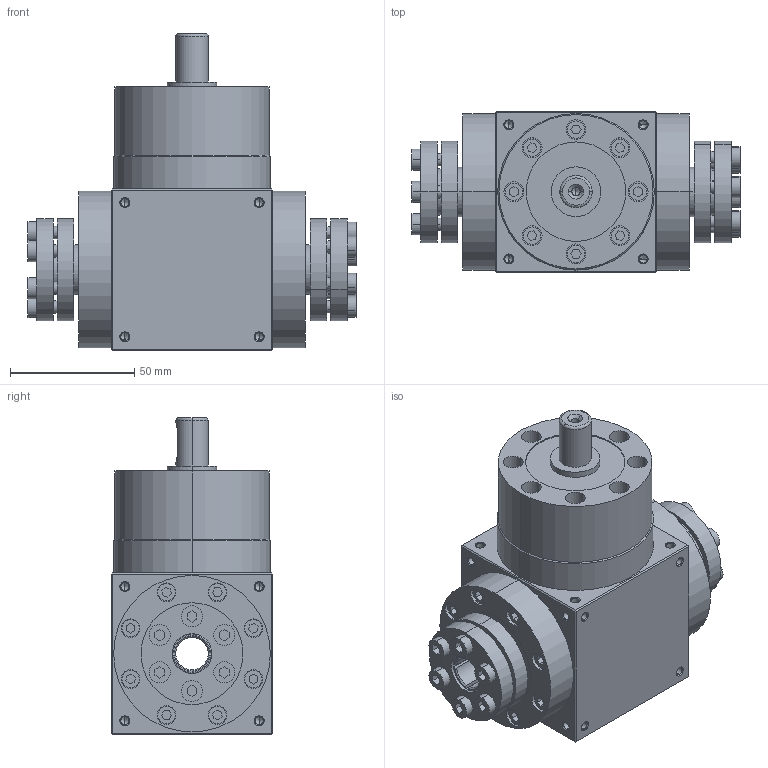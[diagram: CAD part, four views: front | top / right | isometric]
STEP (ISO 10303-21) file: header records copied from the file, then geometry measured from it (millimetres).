
FILE_DESCRIPTION (( 'STEP AP203' ), '1' );
FILE_NAME ('AT65FC-L1-1-S2-P2.STEP', '2026-04-20T03:07:48', ( 'Windows User' ), ( 'P R C' ), 'SwSTEP 2.0', 'SolidWorks 2016', '' );
FILE_SCHEMA (( 'CONFIG_CONTROL_DESIGN' ));
Length unit declared in the file: millimetre
Products named in the file (4): AT65FC-坶踡杶; AT065FC-输入端-批量; AT65FC-L1-1-S2-P2; AT65FC-转角箱体-批量-孔输出
Assembly tree (4 placements, depth 2):
  AT65FC-L1-1-S2-P2
    AT65FC-转角箱体-批量-孔输出
    AT65FC-坶踡杶  x2
    AT065FC-输入端-批量
Bounding box: 132 x 65 x 127.5 mm (x, y, z)
Volume: 387193.2 mm3; surface area: 100875.1 mm2
Topology: 4 solids, 16 shells, 1537 faces, 3882 edges, 2461 vertices
Faces by surface type: plane 816, cylinder 365, cone 216, bspline 140
Entity records: 48756 total; most frequent: CARTESIAN_POINT 14750, ORIENTED_EDGE 7184, DIRECTION 6408, EDGE_CURVE 3592, LINE 2382, VECTOR 2382, VERTEX_POINT 2325, AXIS2_PLACEMENT_3D 2013
